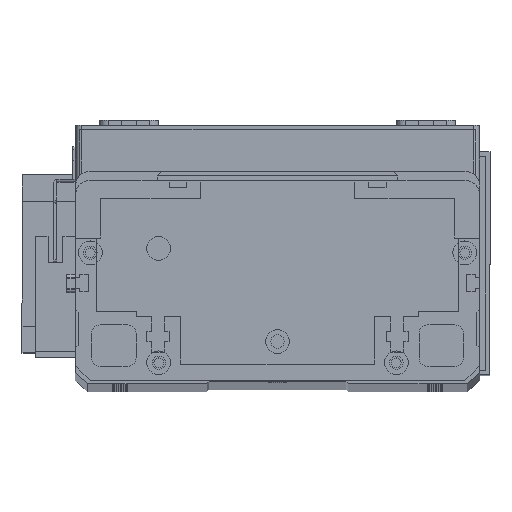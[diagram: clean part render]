
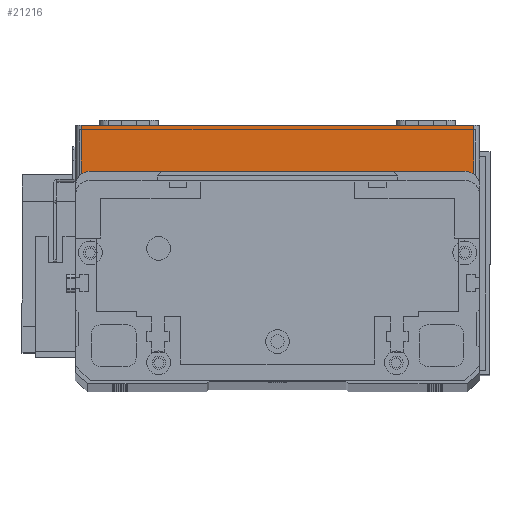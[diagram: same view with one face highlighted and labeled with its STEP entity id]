
A CAD part, top view. The second image highlights one B-rep face of the part: STEP entity #21216.
In plain terms, the highlighted planar face has unit normal (0, 0, 1) as drawn and (0, -1, 0) by its records, which use the part's own axes.
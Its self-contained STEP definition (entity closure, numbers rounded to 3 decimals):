
#524 = VERTEX_POINT ( 'NONE', #15114 ) ;
#1477 = ORIENTED_EDGE ( 'NONE', *, *, #10589, .T. ) ;
#2517 = VERTEX_POINT ( 'NONE', #29609 ) ;
#2696 = CARTESIAN_POINT ( 'NONE',  ( 2., 0., 19.5 ) ) ;
#4455 = LINE ( 'NONE', #14137, #22091 ) ;
#5101 = EDGE_LOOP ( 'NONE', ( #19458, #8717, #26887, #1477 ) ) ;
#5891 = VERTEX_POINT ( 'NONE', #29578 ) ;
#7199 = AXIS2_PLACEMENT_3D ( 'NONE', #14253, #21204, #7421 ) ;
#7421 = DIRECTION ( 'NONE',  ( 0., 0., 1. ) ) ;
#8717 = ORIENTED_EDGE ( 'NONE', *, *, #21183, .T. ) ;
#9461 = DIRECTION ( 'NONE',  ( 0., 0., 1. ) ) ;
#9553 = CARTESIAN_POINT ( 'NONE',  ( 134., 0., 19.5 ) ) ;
#10027 = VECTOR ( 'NONE', #9461, 1000. ) ;
#10589 = EDGE_CURVE ( 'NONE', #18886, #524, #16124, .T. ) ;
#10989 = LINE ( 'NONE', #2696, #29109 ) ;
#11028 = EDGE_CURVE ( 'NONE', #2517, #18886, #16098, .T. ) ;
#12070 = CARTESIAN_POINT ( 'NONE',  ( 134., 0., 0. ) ) ;
#14137 = CARTESIAN_POINT ( 'NONE',  ( 0., 0., 19.5 ) ) ;
#14253 = CARTESIAN_POINT ( 'NONE',  ( 0., 0., 19.5 ) ) ;
#14667 = VECTOR ( 'NONE', #25913, 1000. ) ;
#15114 = CARTESIAN_POINT ( 'NONE',  ( 134., 0., 19.5 ) ) ;
#15629 = FACE_OUTER_BOUND ( 'NONE', #5101, .T. ) ;
#16098 = LINE ( 'NONE', #26177, #14667 ) ;
#16124 = LINE ( 'NONE', #9553, #10027 ) ;
#18792 = DIRECTION ( 'NONE',  ( 0., 0., -1. ) ) ;
#18886 = VERTEX_POINT ( 'NONE', #12070 ) ;
#18891 = PLANE ( 'NONE',  #7199 ) ;
#19458 = ORIENTED_EDGE ( 'NONE', *, *, #21820, .F. ) ;
#21167 = DIRECTION ( 'NONE',  ( 1., 0., 0. ) ) ;
#21183 = EDGE_CURVE ( 'NONE', #5891, #2517, #10989, .T. ) ;
#21204 = DIRECTION ( 'NONE',  ( 0., 1., 0. ) ) ;
#21216 = ADVANCED_FACE ( 'NONE', ( #15629 ), #18891, .F. ) ;
#21820 = EDGE_CURVE ( 'NONE', #5891, #524, #4455, .T. ) ;
#22091 = VECTOR ( 'NONE', #21167, 1000. ) ;
#25913 = DIRECTION ( 'NONE',  ( 1., 0., 0. ) ) ;
#26177 = CARTESIAN_POINT ( 'NONE',  ( 0., 0., 0. ) ) ;
#26887 = ORIENTED_EDGE ( 'NONE', *, *, #11028, .T. ) ;
#29109 = VECTOR ( 'NONE', #18792, 1000. ) ;
#29578 = CARTESIAN_POINT ( 'NONE',  ( 2., 0., 19.5 ) ) ;
#29609 = CARTESIAN_POINT ( 'NONE',  ( 2., 0., 0. ) ) ;
